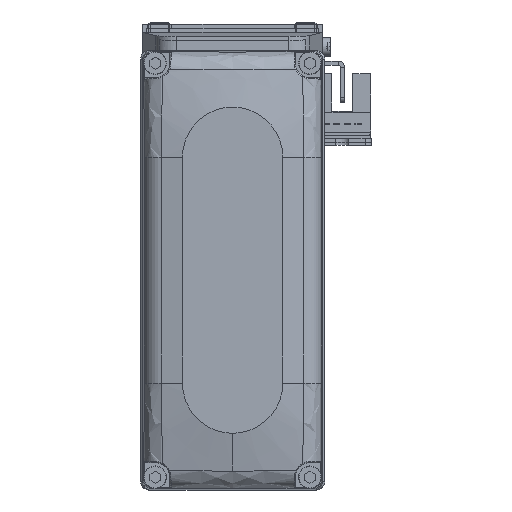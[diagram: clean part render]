
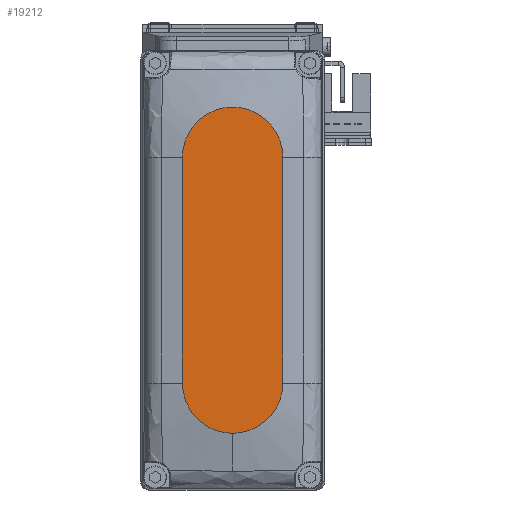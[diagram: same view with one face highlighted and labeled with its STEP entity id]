
A CAD part, top view. The second image highlights one B-rep face of the part: STEP entity #19212.
In plain terms, the highlighted planar face has unit normal (0, 0, 1).
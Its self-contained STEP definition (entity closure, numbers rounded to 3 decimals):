
#271 = DIRECTION ( 'NONE',  ( 1., 0., 0. ) ) ;
#4036 = CARTESIAN_POINT ( 'NONE',  ( -27., -12., 25. ) ) ;
#5047 = VERTEX_POINT ( 'NONE', #14395 ) ;
#5090 = VERTEX_POINT ( 'NONE', #46632 ) ;
#6203 = PLANE ( 'NONE',  #19866 ) ;
#6376 = CARTESIAN_POINT ( 'NONE',  ( 27., 0., 25. ) ) ;
#7332 = EDGE_LOOP ( 'NONE', ( #44953, #14089, #60543, #10847, #62739 ) ) ;
#10126 = CARTESIAN_POINT ( 'NONE',  ( -27., -12., 25. ) ) ;
#10282 = VERTEX_POINT ( 'NONE', #4036 ) ;
#10847 = ORIENTED_EDGE ( 'NONE', *, *, #76791, .T. ) ;
#13448 = CIRCLE ( 'NONE', #57547, 12. ) ;
#14089 = ORIENTED_EDGE ( 'NONE', *, *, #57315, .T. ) ;
#14395 = CARTESIAN_POINT ( 'NONE',  ( 39., 0., 25. ) ) ;
#17367 = DIRECTION ( 'NONE',  ( 0., 0., 1. ) ) ;
#19212 = ADVANCED_FACE ( 'NONE', ( #60254 ), #6203, .T. ) ;
#19521 = DIRECTION ( 'NONE',  ( 0., 0., 1. ) ) ;
#19866 = AXIS2_PLACEMENT_3D ( 'NONE', #30249, #54330, #271 ) ;
#23736 = LINE ( 'NONE', #47793, #76597 ) ;
#25300 = AXIS2_PLACEMENT_3D ( 'NONE', #6376, #30413, #54487 ) ;
#30249 = CARTESIAN_POINT ( 'NONE',  ( 0., 0., 25. ) ) ;
#30413 = DIRECTION ( 'NONE',  ( 0., 0., 1. ) ) ;
#33902 = CIRCLE ( 'NONE', #78047, 12. ) ;
#34167 = DIRECTION ( 'NONE',  ( 1., 0., 0. ) ) ;
#35301 = EDGE_CURVE ( 'NONE', #10282, #65334, #64166, .T. ) ;
#37348 = VERTEX_POINT ( 'NONE', #65070 ) ;
#40282 = VECTOR ( 'NONE', #34167, 1000. ) ;
#41425 = DIRECTION ( 'NONE',  ( 1., 0., 0. ) ) ;
#43575 = DIRECTION ( 'NONE',  ( 1., 0., 0. ) ) ;
#44953 = ORIENTED_EDGE ( 'NONE', *, *, #59363, .T. ) ;
#46632 = CARTESIAN_POINT ( 'NONE',  ( -27., 12., 25. ) ) ;
#47793 = CARTESIAN_POINT ( 'NONE',  ( -27., 12., 25. ) ) ;
#49219 = CIRCLE ( 'NONE', #25300, 12. ) ;
#50626 = EDGE_CURVE ( 'NONE', #5047, #37348, #49219, .T. ) ;
#54330 = DIRECTION ( 'NONE',  ( 0., 0., 1. ) ) ;
#54487 = DIRECTION ( 'NONE',  ( 1., 0., 0. ) ) ;
#57315 = EDGE_CURVE ( 'NONE', #5090, #10282, #13448, .T. ) ;
#57547 = AXIS2_PLACEMENT_3D ( 'NONE', #73580, #19521, #43575 ) ;
#59363 = EDGE_CURVE ( 'NONE', #37348, #5090, #23736, .T. ) ;
#60254 = FACE_OUTER_BOUND ( 'NONE', #7332, .T. ) ;
#60543 = ORIENTED_EDGE ( 'NONE', *, *, #35301, .T. ) ;
#62739 = ORIENTED_EDGE ( 'NONE', *, *, #50626, .T. ) ;
#64166 = LINE ( 'NONE', #10126, #40282 ) ;
#65070 = CARTESIAN_POINT ( 'NONE',  ( 27., 12., 25. ) ) ;
#65334 = VERTEX_POINT ( 'NONE', #71955 ) ;
#71390 = CARTESIAN_POINT ( 'NONE',  ( 27., 0., 25. ) ) ;
#71878 = DIRECTION ( 'NONE',  ( -1., 0., 0. ) ) ;
#71955 = CARTESIAN_POINT ( 'NONE',  ( 27., -12., 25. ) ) ;
#73580 = CARTESIAN_POINT ( 'NONE',  ( -27., 0., 25. ) ) ;
#76597 = VECTOR ( 'NONE', #71878, 1000. ) ;
#76791 = EDGE_CURVE ( 'NONE', #65334, #5047, #33902, .T. ) ;
#78047 = AXIS2_PLACEMENT_3D ( 'NONE', #71390, #17367, #41425 ) ;
